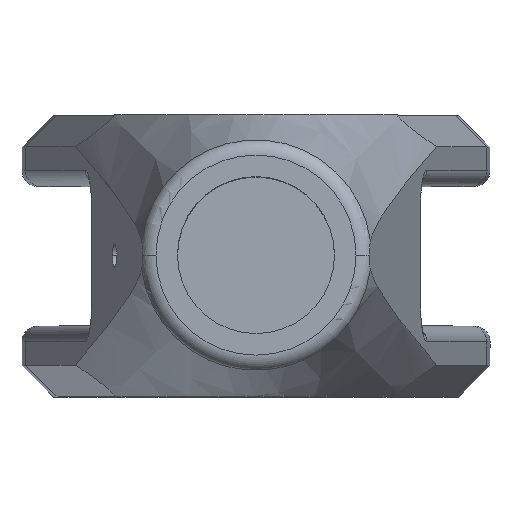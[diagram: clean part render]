
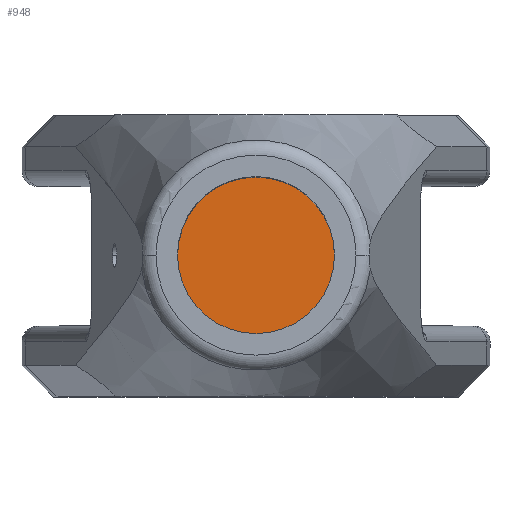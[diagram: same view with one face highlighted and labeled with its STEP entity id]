
A CAD part, top view. The second image highlights one B-rep face of the part: STEP entity #948.
In plain terms, the highlighted planar face has unit normal (0, 0, 1).
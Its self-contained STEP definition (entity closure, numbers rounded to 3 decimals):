
#12 = VERTEX_POINT ( 'NONE', #2068 ) ;
#38 = DIRECTION ( 'NONE',  ( 1., 0., 0. ) ) ;
#76 = VERTEX_POINT ( 'NONE', #1629 ) ;
#87 = EDGE_CURVE ( 'NONE', #76, #12, #1640, .T. ) ;
#188 = DIRECTION ( 'NONE',  ( 0., 0., 1. ) ) ;
#206 = FACE_OUTER_BOUND ( 'NONE', #713, .T. ) ;
#320 = AXIS2_PLACEMENT_3D ( 'NONE', #1442, #637, #1793 ) ;
#514 = ORIENTED_EDGE ( 'NONE', *, *, #1053, .T. ) ;
#530 = AXIS2_PLACEMENT_3D ( 'NONE', #1865, #188, #38 ) ;
#570 = CARTESIAN_POINT ( 'NONE',  ( 71.5, 0., -200. ) ) ;
#637 = DIRECTION ( 'NONE',  ( 0., 0., 1. ) ) ;
#681 = DIRECTION ( 'NONE',  ( 0., 0., 1. ) ) ;
#709 = DIRECTION ( 'NONE',  ( 1., 0., 0. ) ) ;
#713 = EDGE_LOOP ( 'NONE', ( #514, #1449 ) ) ;
#868 = PLANE ( 'NONE',  #2110 ) ;
#948 = ADVANCED_FACE ( 'NONE', ( #206 ), #868, .T. ) ;
#1053 = EDGE_CURVE ( 'NONE', #12, #76, #1408, .T. ) ;
#1408 = CIRCLE ( 'NONE', #530, 50. ) ;
#1442 = CARTESIAN_POINT ( 'NONE',  ( 71.5, 0., -200. ) ) ;
#1449 = ORIENTED_EDGE ( 'NONE', *, *, #87, .T. ) ;
#1629 = CARTESIAN_POINT ( 'NONE',  ( 21.5, 0., -200. ) ) ;
#1640 = CIRCLE ( 'NONE', #320, 50. ) ;
#1793 = DIRECTION ( 'NONE',  ( 1., 0., 0. ) ) ;
#1865 = CARTESIAN_POINT ( 'NONE',  ( 71.5, 0., -200. ) ) ;
#2068 = CARTESIAN_POINT ( 'NONE',  ( 121.5, 0., -200. ) ) ;
#2110 = AXIS2_PLACEMENT_3D ( 'NONE', #570, #681, #709 ) ;
